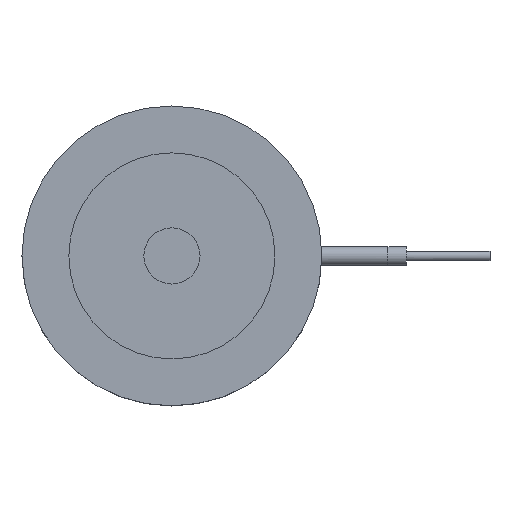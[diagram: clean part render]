
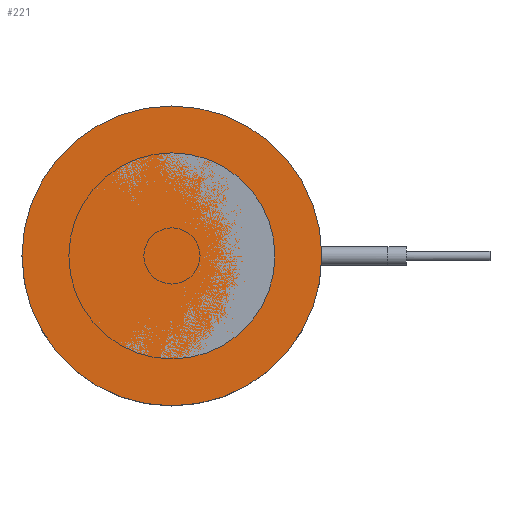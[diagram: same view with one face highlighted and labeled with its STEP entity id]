
A CAD part, top view. The second image highlights one B-rep face of the part: STEP entity #221.
In plain terms, the highlighted planar face has unit normal (0, 0, 1).
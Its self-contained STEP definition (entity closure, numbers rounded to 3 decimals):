
#221=ADVANCED_FACE('',(#318),#288,.F.);
#288=PLANE('',#1050);
#318=FACE_OUTER_BOUND('',#434,.T.);
#434=EDGE_LOOP('',(#544));
#544=ORIENTED_EDGE('',*,*,#861,.F.);
#772=VERTEX_POINT('',#1499);
#861=EDGE_CURVE('',#772,#772,#976,.T.);
#976=CIRCLE('',#1049,16.);
#1049=AXIS2_PLACEMENT_3D('',#1498,#1197,#1198);
#1050=AXIS2_PLACEMENT_3D('',#1500,#1199,#1200);
#1197=DIRECTION('',(0.,0.,-1.));
#1198=DIRECTION('',(-1.,0.,0.));
#1199=DIRECTION('',(0.,0.,-1.));
#1200=DIRECTION('',(-1.,0.,0.));
#1498=CARTESIAN_POINT('',(0.,0.,0.));
#1499=CARTESIAN_POINT('',(-16.,0.,0.));
#1500=CARTESIAN_POINT('',(0.,0.,0.));
